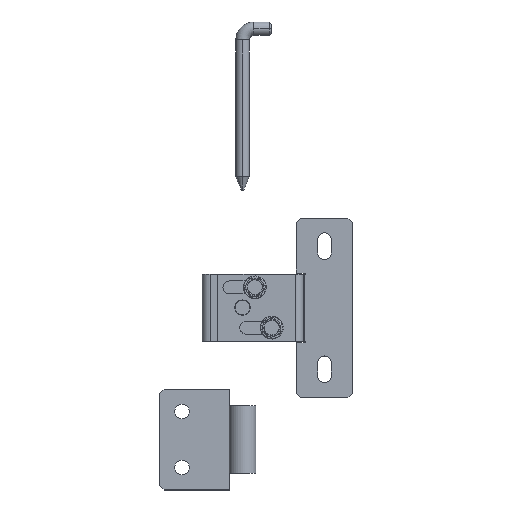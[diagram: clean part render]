
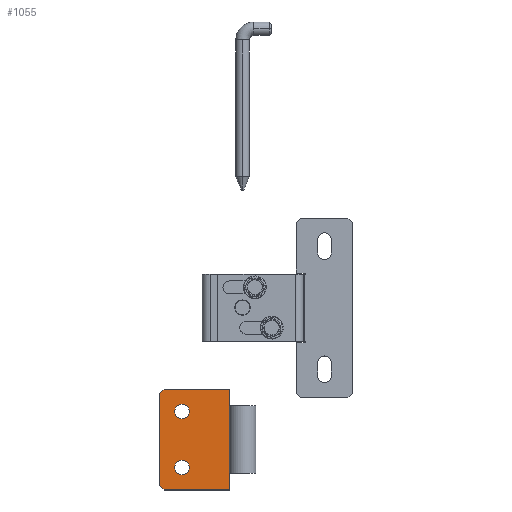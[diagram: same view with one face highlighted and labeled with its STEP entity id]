
A CAD part, top view. The second image highlights one B-rep face of the part: STEP entity #1055.
In plain terms, the highlighted planar face has unit normal (0, 0, 1).
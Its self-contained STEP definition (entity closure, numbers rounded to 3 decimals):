
#847 = VERTEX_POINT ( 'NONE', #4289 ) ;
#1008 = VERTEX_POINT ( 'NONE', #4590 ) ;
#1017 = VERTEX_POINT ( 'NONE', #4629 ) ;
#1022 = VERTEX_POINT ( 'NONE', #4620 ) ;
#1025 = EDGE_CURVE ( 'NONE', #1017, #1028, #4613, .T. ) ;
#1028 = VERTEX_POINT ( 'NONE', #4618 ) ;
#1031 = VERTEX_POINT ( 'NONE', #4346 ) ;
#1035 = EDGE_CURVE ( 'NONE', #1031, #847, #4654, .T. ) ;
#1044 = EDGE_CURVE ( 'NONE', #847, #1031, #4640, .T. ) ;
#1045 = EDGE_CURVE ( 'NONE', #1061, #1075, #4656, .T. ) ;
#1046 = EDGE_CURVE ( 'NONE', #1022, #1086, #4690, .T. ) ;
#1050 = VERTEX_POINT ( 'NONE', #4659 ) ;
#1051 = VERTEX_POINT ( 'NONE', #4684 ) ;
#1053 = ORIENTED_EDGE ( 'NONE', *, *, #1059, .T. ) ;
#1054 = ORIENTED_EDGE ( 'NONE', *, *, #1077, .T. ) ;
#1055 = ADVANCED_FACE ( 'NONE', ( #4692, #4696, #4680 ), #4678, .F. ) ;
#1057 = ORIENTED_EDGE ( 'NONE', *, *, #1085, .T. ) ;
#1058 = ORIENTED_EDGE ( 'NONE', *, *, #1062, .T. ) ;
#1059 = EDGE_CURVE ( 'NONE', #1051, #1050, #4693, .T. ) ;
#1060 = VERTEX_POINT ( 'NONE', #4679 ) ;
#1061 = VERTEX_POINT ( 'NONE', #4677 ) ;
#1062 = EDGE_CURVE ( 'NONE', #1050, #1060, #4667, .T. ) ;
#1064 = EDGE_LOOP ( 'NONE', ( #1057, #1054, #1053, #1058, #1072, #1123, #1122, #1107, #1127, #1109 ) ) ;
#1065 = VERTEX_POINT ( 'NONE', #4668 ) ;
#1069 = EDGE_CURVE ( 'NONE', #1075, #1022, #4713, .T. ) ;
#1072 = ORIENTED_EDGE ( 'NONE', *, *, #1124, .T. ) ;
#1075 = VERTEX_POINT ( 'NONE', #4702 ) ;
#1077 = EDGE_CURVE ( 'NONE', #1008, #1051, #4700, .T. ) ;
#1085 = EDGE_CURVE ( 'NONE', #1086, #1008, #4755, .T. ) ;
#1086 = VERTEX_POINT ( 'NONE', #4748 ) ;
#1097 = ORIENTED_EDGE ( 'NONE', *, *, #1025, .F. ) ;
#1107 = ORIENTED_EDGE ( 'NONE', *, *, #1045, .T. ) ;
#1109 = ORIENTED_EDGE ( 'NONE', *, *, #1046, .T. ) ;
#1110 = EDGE_LOOP ( 'NONE', ( #1112, #1115 ) ) ;
#1112 = ORIENTED_EDGE ( 'NONE', *, *, #1044, .F. ) ;
#1114 = EDGE_LOOP ( 'NONE', ( #1119, #1097 ) ) ;
#1115 = ORIENTED_EDGE ( 'NONE', *, *, #1035, .F. ) ;
#1118 = EDGE_CURVE ( 'NONE', #1028, #1017, #4771, .T. ) ;
#1119 = ORIENTED_EDGE ( 'NONE', *, *, #1118, .F. ) ;
#1122 = ORIENTED_EDGE ( 'NONE', *, *, #1128, .T. ) ;
#1123 = ORIENTED_EDGE ( 'NONE', *, *, #1126, .T. ) ;
#1124 = EDGE_CURVE ( 'NONE', #1060, #1065, #4825, .T. ) ;
#1125 = VERTEX_POINT ( 'NONE', #4813 ) ;
#1126 = EDGE_CURVE ( 'NONE', #1065, #1125, #4810, .T. ) ;
#1127 = ORIENTED_EDGE ( 'NONE', *, *, #1069, .T. ) ;
#1128 = EDGE_CURVE ( 'NONE', #1125, #1061, #4804, .T. ) ;
#4289 = CARTESIAN_POINT ( 'NONE',  ( -6.75, -2.5, 3. ) ) ;
#4346 = CARTESIAN_POINT ( 'NONE',  ( -13.25, -2.5, 3. ) ) ;
#4590 = CARTESIAN_POINT ( 'NONE',  ( 11., 0., 3. ) ) ;
#4609 = DIRECTION ( 'NONE',  ( 1., 0., 0. ) ) ;
#4610 = DIRECTION ( 'NONE',  ( 0., 0., 1. ) ) ;
#4611 = CARTESIAN_POINT ( 'NONE',  ( -10., -27.5, 3. ) ) ;
#4612 = AXIS2_PLACEMENT_3D ( 'NONE', #4611, #4610, #4609 ) ;
#4613 = CIRCLE ( 'NONE', #4612, 3.25 ) ;
#4618 = CARTESIAN_POINT ( 'NONE',  ( -6.75, -27.5, 3. ) ) ;
#4620 = CARTESIAN_POINT ( 'NONE',  ( 17., -30., 3. ) ) ;
#4629 = CARTESIAN_POINT ( 'NONE',  ( -13.25, -27.5, 3. ) ) ;
#4639 = CARTESIAN_POINT ( 'NONE',  ( -10., -2.5, 3. ) ) ;
#4640 = CIRCLE ( 'NONE', #4699, 3.25 ) ;
#4646 = DIRECTION ( 'NONE',  ( -1., 0., 0. ) ) ;
#4647 = DIRECTION ( 'NONE',  ( 0., 0., 1. ) ) ;
#4648 = CARTESIAN_POINT ( 'NONE',  ( -10., -2.5, 3. ) ) ;
#4654 = CIRCLE ( 'NONE', #4662, 3.25 ) ;
#4655 = CARTESIAN_POINT ( 'NONE',  ( 11., -37.5, 3. ) ) ;
#4656 = LINE ( 'NONE', #4655, #4695 ) ;
#4659 = CARTESIAN_POINT ( 'NONE',  ( -18., 7.5, 3. ) ) ;
#4662 = AXIS2_PLACEMENT_3D ( 'NONE', #4648, #4647, #4646 ) ;
#4667 = LINE ( 'NONE', #4728, #4727 ) ;
#4668 = CARTESIAN_POINT ( 'NONE',  ( -20., -35.5, 3. ) ) ;
#4669 = DIRECTION ( 'NONE',  ( -1., 0., 0. ) ) ;
#4670 = VECTOR ( 'NONE', #4669, 1000. ) ;
#4671 = CARTESIAN_POINT ( 'NONE',  ( -18., 7.5, 3. ) ) ;
#4674 = DIRECTION ( 'NONE',  ( -1., 0., 0. ) ) ;
#4675 = DIRECTION ( 'NONE',  ( 0., 0., -1. ) ) ;
#4676 = CARTESIAN_POINT ( 'NONE',  ( 17., 0., 3. ) ) ;
#4677 = CARTESIAN_POINT ( 'NONE',  ( 11., -37.5, 3. ) ) ;
#4678 = PLANE ( 'NONE',  #4681 ) ;
#4679 = CARTESIAN_POINT ( 'NONE',  ( -20., 5.5, 3. ) ) ;
#4680 = FACE_BOUND ( 'NONE', #1114, .T. ) ;
#4681 = AXIS2_PLACEMENT_3D ( 'NONE', #4676, #4675, #4674 ) ;
#4684 = CARTESIAN_POINT ( 'NONE',  ( 11., 7.5, 3. ) ) ;
#4687 = DIRECTION ( 'NONE',  ( 0., 1., 0. ) ) ;
#4688 = VECTOR ( 'NONE', #4687, 1000. ) ;
#4689 = CARTESIAN_POINT ( 'NONE',  ( 17., -30., 3. ) ) ;
#4690 = LINE ( 'NONE', #4689, #4688 ) ;
#4692 = FACE_OUTER_BOUND ( 'NONE', #1064, .T. ) ;
#4693 = LINE ( 'NONE', #4671, #4670 ) ;
#4694 = DIRECTION ( 'NONE',  ( 0., 1., 0. ) ) ;
#4695 = VECTOR ( 'NONE', #4694, 1000. ) ;
#4696 = FACE_BOUND ( 'NONE', #1110, .T. ) ;
#4697 = DIRECTION ( 'NONE',  ( -1., 0., 0. ) ) ;
#4698 = DIRECTION ( 'NONE',  ( 0., 0., 1. ) ) ;
#4699 = AXIS2_PLACEMENT_3D ( 'NONE', #4639, #4698, #4697 ) ;
#4700 = LINE ( 'NONE', #4707, #4706 ) ;
#4702 = CARTESIAN_POINT ( 'NONE',  ( 11., -30., 3. ) ) ;
#4706 = VECTOR ( 'NONE', #4764, 1000. ) ;
#4707 = CARTESIAN_POINT ( 'NONE',  ( 11., 7.5, 3. ) ) ;
#4710 = DIRECTION ( 'NONE',  ( 1., 0., 0. ) ) ;
#4711 = VECTOR ( 'NONE', #4710, 1000. ) ;
#4712 = CARTESIAN_POINT ( 'NONE',  ( 0., -30., 3. ) ) ;
#4713 = LINE ( 'NONE', #4712, #4711 ) ;
#4726 = DIRECTION ( 'NONE',  ( -0.707, -0.707, 0. ) ) ;
#4727 = VECTOR ( 'NONE', #4726, 1000. ) ;
#4728 = CARTESIAN_POINT ( 'NONE',  ( -20., 5.5, 3. ) ) ;
#4743 = DIRECTION ( 'NONE',  ( -1., 0., 0. ) ) ;
#4744 = VECTOR ( 'NONE', #4743, 1000. ) ;
#4748 = CARTESIAN_POINT ( 'NONE',  ( 17., 0., 3. ) ) ;
#4754 = CARTESIAN_POINT ( 'NONE',  ( 17., 0., 3. ) ) ;
#4755 = LINE ( 'NONE', #4754, #4744 ) ;
#4764 = DIRECTION ( 'NONE',  ( 0., 1., 0. ) ) ;
#4768 = VECTOR ( 'NONE', #4774, 1000. ) ;
#4771 = CIRCLE ( 'NONE', #4816, 3.25 ) ;
#4774 = DIRECTION ( 'NONE',  ( 0., -1., 0. ) ) ;
#4801 = DIRECTION ( 'NONE',  ( 1., 0., 0. ) ) ;
#4802 = VECTOR ( 'NONE', #4801, 1000. ) ;
#4803 = CARTESIAN_POINT ( 'NONE',  ( -18., -37.5, 3. ) ) ;
#4804 = LINE ( 'NONE', #4803, #4802 ) ;
#4807 = DIRECTION ( 'NONE',  ( 0.707, -0.707, 0. ) ) ;
#4808 = VECTOR ( 'NONE', #4807, 1000. ) ;
#4809 = CARTESIAN_POINT ( 'NONE',  ( -20., -35.5, 3. ) ) ;
#4810 = LINE ( 'NONE', #4809, #4808 ) ;
#4813 = CARTESIAN_POINT ( 'NONE',  ( -18., -37.5, 3. ) ) ;
#4814 = DIRECTION ( 'NONE',  ( 1., 0., 0. ) ) ;
#4815 = DIRECTION ( 'NONE',  ( 0., 0., 1. ) ) ;
#4816 = AXIS2_PLACEMENT_3D ( 'NONE', #4823, #4815, #4814 ) ;
#4823 = CARTESIAN_POINT ( 'NONE',  ( -10., -27.5, 3. ) ) ;
#4824 = CARTESIAN_POINT ( 'NONE',  ( -20., 5.5, 3. ) ) ;
#4825 = LINE ( 'NONE', #4824, #4768 ) ;
